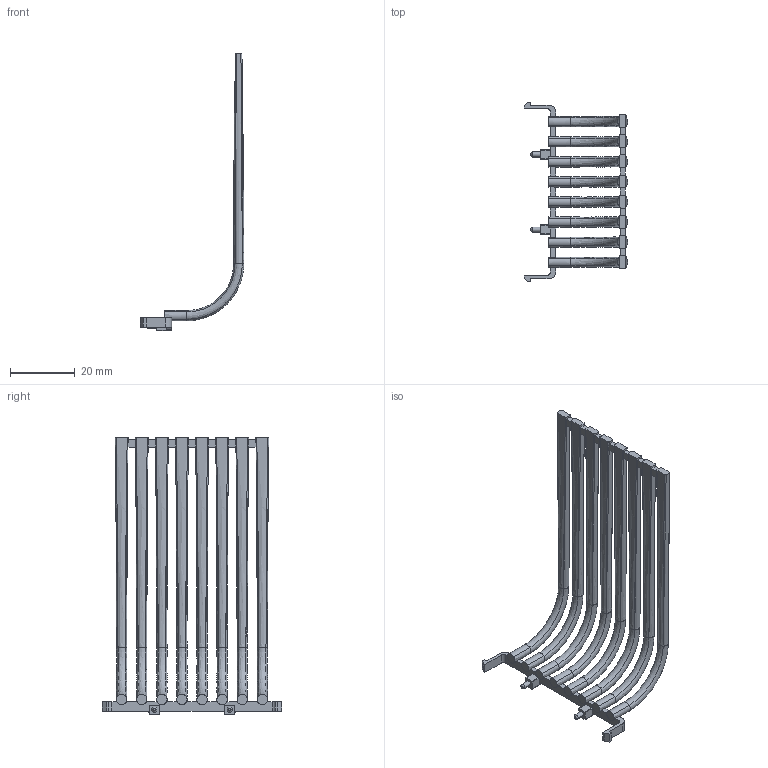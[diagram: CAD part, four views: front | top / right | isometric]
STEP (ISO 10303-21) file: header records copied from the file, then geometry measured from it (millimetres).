
FILE_DESCRIPTION((''),'2;1');
FILE_NAME('125400000272A-LIGHT_PIPE','2019-07-31T',('curtis_chen'),(''),'PRO/ENGINEER BY PARAMETRIC TECHNOLOGY CORPORATION, 2012480','PRO/ENGINEER BY PARAMETRIC TECHNOLOGY CORPORATION, 2012480','');
FILE_SCHEMA(('AUTOMOTIVE_DESIGN { 1 0 10303 214 1 1 1 1 }'));
Length unit declared in the file: millimetre
Products named in the file (1): 125400000272A-LIGHT_PIPE
Bounding box: 32 x 55.4 x 85.7 mm (x, y, z)
Volume: 6740.6 mm3; surface area: 8863 mm2
Topology: 1 solids, 1 shells, 256 faces, 714 edges, 448 vertices
Faces by surface type: bspline 154, plane 82, cylinder 20
Entity records: 20118 total; most frequent: CARTESIAN_POINT 12578, ORIENTED_EDGE 1428, PRESENTATION_STYLE_ASSIGNMENT 715, STYLED_ITEM 715, CURVE_STYLE 714, EDGE_CURVE 714, DIRECTION 602, VERTEX_POINT 448
